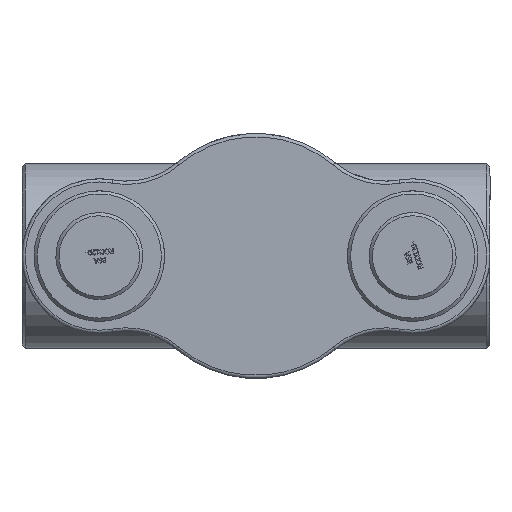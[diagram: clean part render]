
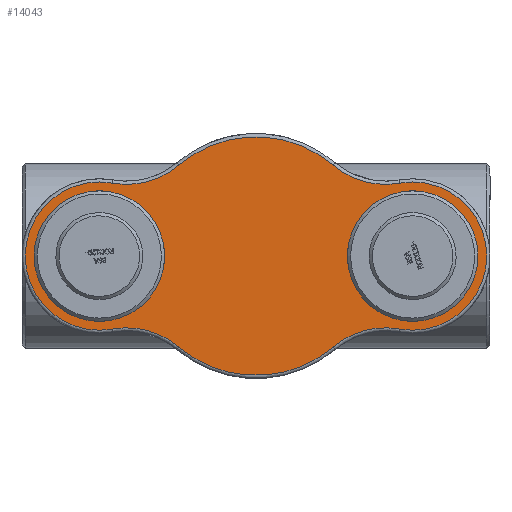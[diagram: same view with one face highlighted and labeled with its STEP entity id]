
A CAD part, front view. The second image highlights one B-rep face of the part: STEP entity #14043.
In plain terms, the highlighted planar face has unit normal (0, -1, 0) as drawn and (0, 0, -1) by its records, which use the part's own axes.
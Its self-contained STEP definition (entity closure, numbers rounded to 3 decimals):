
#3679=PLANE('',#14953);
#4074=FACE_BOUND('',#4997,.T.);
#4075=FACE_BOUND('',#4998,.T.);
#4175=FACE_OUTER_BOUND('',#4996,.T.);
#4996=EDGE_LOOP('',(#9702,#9703,#9704,#9705,#9706,#9707,#9708,#9709));
#4997=EDGE_LOOP('',(#9710));
#4998=EDGE_LOOP('',(#9711));
#5916=CIRCLE('',#14952,75.5);
#5917=CIRCLE('',#14954,115.);
#5918=CIRCLE('',#14955,125.);
#5919=CIRCLE('',#14956,185.);
#5920=CIRCLE('',#14957,125.);
#5921=CIRCLE('',#14958,115.);
#5922=CIRCLE('',#14959,125.);
#5923=CIRCLE('',#14960,185.);
#5924=CIRCLE('',#14961,125.);
#5925=CIRCLE('',#14962,75.5);
#6100=VERTEX_POINT('',#18317);
#6101=VERTEX_POINT('',#18320);
#6102=VERTEX_POINT('',#18321);
#6103=VERTEX_POINT('',#18323);
#6104=VERTEX_POINT('',#18325);
#6105=VERTEX_POINT('',#18327);
#6106=VERTEX_POINT('',#18329);
#6107=VERTEX_POINT('',#18331);
#6108=VERTEX_POINT('',#18333);
#6109=VERTEX_POINT('',#18336);
#7540=EDGE_CURVE('',#6100,#6100,#5916,.T.);
#7541=EDGE_CURVE('',#6101,#6102,#5917,.T.);
#7542=EDGE_CURVE('',#6103,#6101,#5918,.T.);
#7543=EDGE_CURVE('',#6104,#6103,#5919,.T.);
#7544=EDGE_CURVE('',#6105,#6104,#5920,.T.);
#7545=EDGE_CURVE('',#6106,#6105,#5921,.T.);
#7546=EDGE_CURVE('',#6107,#6106,#5922,.T.);
#7547=EDGE_CURVE('',#6108,#6107,#5923,.T.);
#7548=EDGE_CURVE('',#6102,#6108,#5924,.T.);
#7549=EDGE_CURVE('',#6109,#6109,#5925,.T.);
#9702=ORIENTED_EDGE('',*,*,#7541,.F.);
#9703=ORIENTED_EDGE('',*,*,#7542,.F.);
#9704=ORIENTED_EDGE('',*,*,#7543,.F.);
#9705=ORIENTED_EDGE('',*,*,#7544,.F.);
#9706=ORIENTED_EDGE('',*,*,#7545,.F.);
#9707=ORIENTED_EDGE('',*,*,#7546,.F.);
#9708=ORIENTED_EDGE('',*,*,#7547,.F.);
#9709=ORIENTED_EDGE('',*,*,#7548,.F.);
#9710=ORIENTED_EDGE('',*,*,#7549,.F.);
#9711=ORIENTED_EDGE('',*,*,#7540,.F.);
#14043=ADVANCED_FACE('',(#4175,#4074,#4075),#3679,.F.);
#14952=AXIS2_PLACEMENT_3D('',#18318,#15665,#15666);
#14953=AXIS2_PLACEMENT_3D('',#18319,#15667,#15668);
#14954=AXIS2_PLACEMENT_3D('',#18322,#15669,#15670);
#14955=AXIS2_PLACEMENT_3D('',#18324,#15671,#15672);
#14956=AXIS2_PLACEMENT_3D('',#18326,#15673,#15674);
#14957=AXIS2_PLACEMENT_3D('',#18328,#15675,#15676);
#14958=AXIS2_PLACEMENT_3D('',#18330,#15677,#15678);
#14959=AXIS2_PLACEMENT_3D('',#18332,#15679,#15680);
#14960=AXIS2_PLACEMENT_3D('',#18334,#15681,#15682);
#14961=AXIS2_PLACEMENT_3D('',#18335,#15683,#15684);
#14962=AXIS2_PLACEMENT_3D('',#18337,#15685,#15686);
#15665=DIRECTION('center_axis',(0.,0.,-1.));
#15666=DIRECTION('ref_axis',(1.,0.,0.));
#15667=DIRECTION('center_axis',(0.,0.,1.));
#15668=DIRECTION('ref_axis',(1.,0.,0.));
#15669=DIRECTION('center_axis',(0.,0.,1.));
#15670=DIRECTION('ref_axis',(-1.,0.,0.));
#15671=DIRECTION('center_axis',(0.,0.,-1.));
#15672=DIRECTION('ref_axis',(0.261,-0.965,0.));
#15673=DIRECTION('center_axis',(0.,0.,1.));
#15674=DIRECTION('ref_axis',(0.,1.,0.));
#15675=DIRECTION('center_axis',(0.,0.,-1.));
#15676=DIRECTION('ref_axis',(-0.261,-0.965,0.));
#15677=DIRECTION('center_axis',(0.,0.,1.));
#15678=DIRECTION('ref_axis',(1.,0.,0.));
#15679=DIRECTION('center_axis',(0.,0.,-1.));
#15680=DIRECTION('ref_axis',(-0.261,0.965,0.));
#15681=DIRECTION('center_axis',(0.,0.,1.));
#15682=DIRECTION('ref_axis',(0.,-1.,0.));
#15683=DIRECTION('center_axis',(0.,0.,-1.));
#15684=DIRECTION('ref_axis',(0.261,0.965,0.));
#15685=DIRECTION('center_axis',(0.,0.,-1.));
#15686=DIRECTION('ref_axis',(1.,0.,0.));
#18317=CARTESIAN_POINT('',(167.5,0.,0.));
#18318=CARTESIAN_POINT('Origin',(243.,0.,0.));
#18319=CARTESIAN_POINT('Origin',(0.,0.,
0.));
#18320=CARTESIAN_POINT('',(-222.74,113.201,0.));
#18321=CARTESIAN_POINT('',(-222.74,-113.201,0.));
#18322=CARTESIAN_POINT('Origin',(-243.,0.,0.));
#18323=CARTESIAN_POINT('',(-119.783,140.986,0.));
#18324=CARTESIAN_POINT('Origin',(-200.718,236.246,0.));
#18325=CARTESIAN_POINT('',(119.783,140.986,0.));
#18326=CARTESIAN_POINT('Origin',(0.,0.,0.));
#18327=CARTESIAN_POINT('',(222.74,113.201,0.));
#18328=CARTESIAN_POINT('Origin',(200.718,236.246,0.));
#18329=CARTESIAN_POINT('',(222.74,-113.201,0.));
#18330=CARTESIAN_POINT('Origin',(243.,0.,0.));
#18331=CARTESIAN_POINT('',(119.783,-140.986,0.));
#18332=CARTESIAN_POINT('Origin',(200.718,-236.246,0.));
#18333=CARTESIAN_POINT('',(-119.783,-140.986,0.));
#18334=CARTESIAN_POINT('Origin',(0.,0.,0.));
#18335=CARTESIAN_POINT('Origin',(-200.718,-236.246,0.));
#18336=CARTESIAN_POINT('',(-318.5,0.,0.));
#18337=CARTESIAN_POINT('Origin',(-243.,0.,0.));
